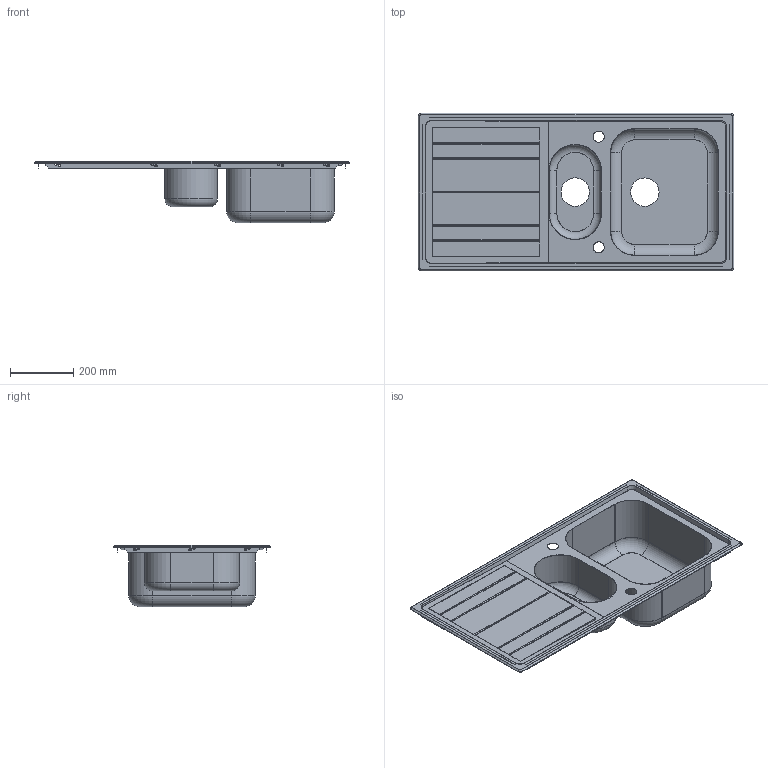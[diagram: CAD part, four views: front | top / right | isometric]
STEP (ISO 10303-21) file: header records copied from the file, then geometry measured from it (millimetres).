
FILE_DESCRIPTION(('CATIA V5 STEP Exchange'),'2;1');
FILE_NAME('C:\Users\linop\Desktop\LPR102.stp','2020-11-11T10:06:51+00:00',('none'),('none'),'CATIA Version 5-6 Release 2014','CATIA V5 STEP AP203','none');
FILE_SCHEMA(('CONFIG_CONTROL_DESIGN'));
Length unit declared in the file: millimetre
Products named in the file (1): LPR102
Bounding box: 1000 x 500 x 194 mm (x, y, z)
Volume: 549222.5 mm3; surface area: 1796546.8 mm2
Topology: 7 solids, 7 shells, 316 faces, 838 edges, 542 vertices
Faces by surface type: plane 158, cylinder 130, cone 16, torus 12
Entity records: 9357 total; most frequent: CARTESIAN_POINT 1875, ORIENTED_EDGE 1676, DIRECTION 1198, EDGE_CURVE 838, VERTEX_POINT 542, VECTOR 510, LINE 510, AXIS2_PLACEMENT_3D 477
